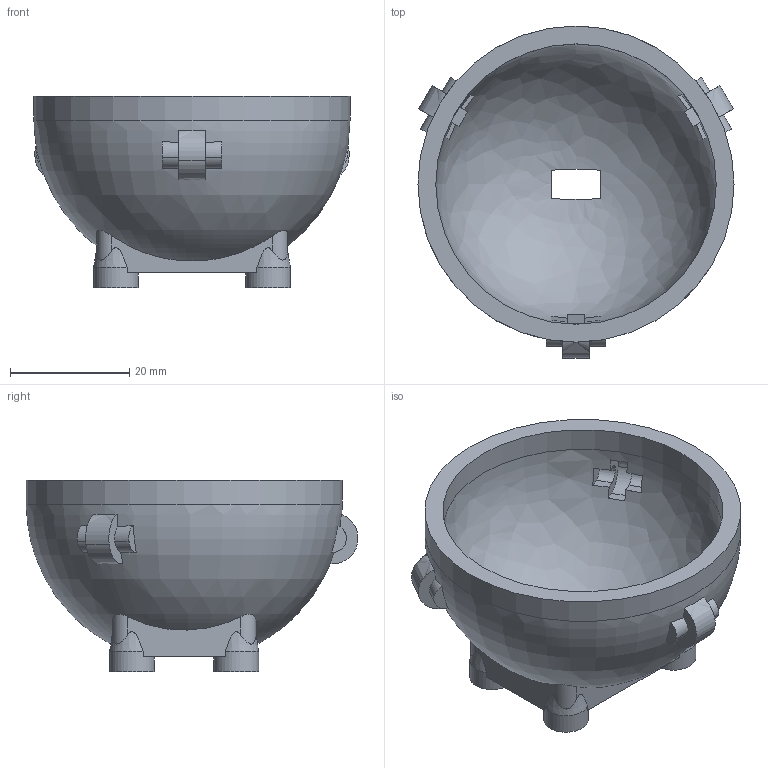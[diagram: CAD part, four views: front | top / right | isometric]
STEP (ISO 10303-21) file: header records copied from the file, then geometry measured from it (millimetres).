
FILE_DESCRIPTION(('Open CASCADE Model'),'2;1');
FILE_NAME('Open CASCADE Shape Model','2026-05-31T19:43:21',('Author'),( 'Open CASCADE'),'Open CASCADE STEP processor 7.6','Open CASCADE 7.6' ,'Unknown');
FILE_SCHEMA(('AP242_MANAGED_MODEL_BASED_3D_ENGINEERING_MIM_LF. {1 0 10303 442 1 1 4 }'));
Length unit declared in the file: millimetre
Products named in the file (1): Open CASCADE STEP translator 7.6 5
Bounding box: 53 x 55.64 x 32.1 mm (x, y, z)
Volume: 14985.7 mm3; surface area: 11140.3 mm2
Topology: 1 solids, 1 shells, 125 faces, 336 edges, 224 vertices
Faces by surface type: plane 61, extrusion 36, cylinder 18, bspline 4, cone 4, revolution 2
Full cylindrical faces by diameter (mm): 3.5 x4, 7.5 x4, 47 x1, 53 x1
Entity records: 19280 total; most frequent: CARTESIAN_POINT 12970, DIRECTION 1020, ORIENTED_EDGE 672, PCURVE 672, DEFINITIONAL_REPRESENTATION 672, VECTOR 506, LINE 470, B_SPLINE_CURVE_WITH_KNOTS 356
